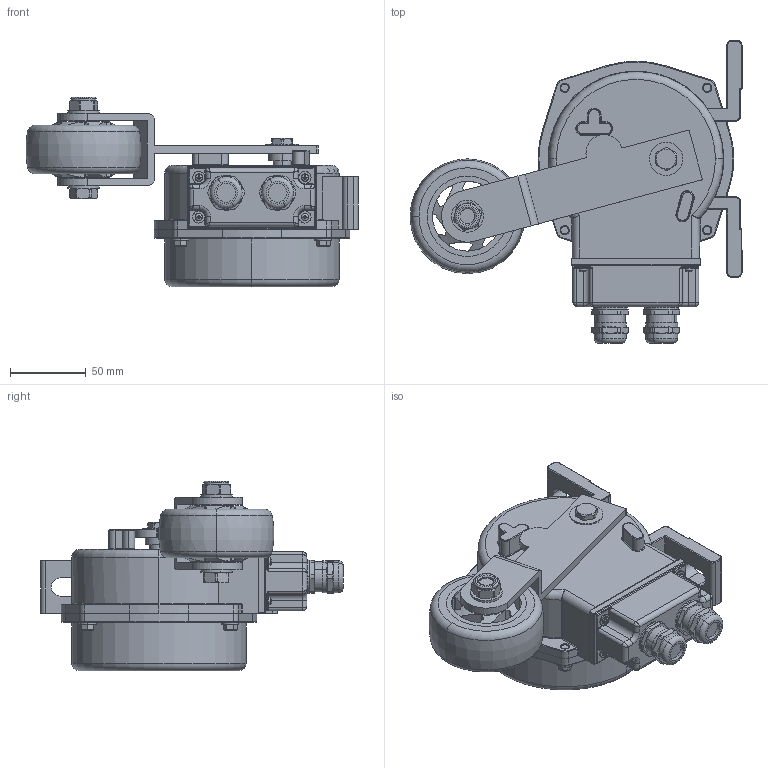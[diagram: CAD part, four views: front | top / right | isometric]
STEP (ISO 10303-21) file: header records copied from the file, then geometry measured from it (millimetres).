
FILE_DESCRIPTION (( 'STEP AP214' ), '1' );
FILE_NAME ('BWS.STEP', '2021-02-24T20:52:17', ( '' ), ( '' ), 'SwSTEP 2.0', 'SolidWorks 2020', '' );
FILE_SCHEMA (( 'AUTOMOTIVE_DESIGN' ));
Length unit declared in the file: millimetre
Products named in the file (17): RES-N扻豵鵨; Øàéáà âèëêè; RES-NØòóðöåð ðó÷êè; hex screw_am_B18.6.7M - M5 x 0.8 x 13 Indented HHMS --13N; pan cross head_am_B18.6.7M - M2.5 x 0.45 x 3 Type I Cross Recessed PHMS --3N; Ðîëèê âíóòð; RES-NÁîêîâàÿ êðûøêà; Øòóöåð âèëêè; RES-N扻錝僝鍧; flat washer narrow_am_B18.22M - Plain washer, 5 mm, narrow; Áîëò âèëêè; ﾐ鸙韭 浯跫; RES-NÊðûøêà êîðïóñà; BWS; RES-N幄鼭歑; flat washer regular_am_B18.22M - Plain washer, 2.5 mm, regular; Âèëêà
Assembly tree (31 placements, depth 2):
  BWS
    RES-N扻豵鵨
    RES-NÁîêîâàÿ êðûøêà
    RES-NÊðûøêà êîðïóñà
    RES-NØòóðöåð ðó÷êè
    RES-N扻錝僝鍧  x2
    RES-N幄鼭歑  x2
    hex screw_am_B18.6.7M - M5 x 0.8 x 13 Indented HHMS --13N  x4
    flat washer narrow_am_B18.22M - Plain washer, 5 mm, narrow  x4
    flat washer regular_am_B18.22M - Plain washer, 2.5 mm, regular  x4
    pan cross head_am_B18.6.7M - M2.5 x 0.45 x 3 Type I Cross Recessed PHMS --3N  x4
    Áîëò âèëêè
    Âèëêà
    Ðîëèê âíóòð
    ﾐ鸙韭 浯跫
    Øàéáà âèëêè  x2
    Øòóöåð âèëêè
Bounding box: 219.04 x 199.6 x 125 mm (x, y, z)
Volume: 1251448.2 mm3; surface area: 185757.6 mm2
Topology: 31 solids, 31 shells, 942 faces, 2262 edges, 1388 vertices
Faces by surface type: cylinder 398, plane 318, torus 120, cone 70, bspline 24, sphere 12
Entity records: 23659 total; most frequent: CARTESIAN_POINT 5788, DIRECTION 3733, ORIENTED_EDGE 3532, EDGE_CURVE 1766, AXIS2_PLACEMENT_3D 1514, VERTEX_POINT 1093, EDGE_LOOP 803, CIRCLE 779
